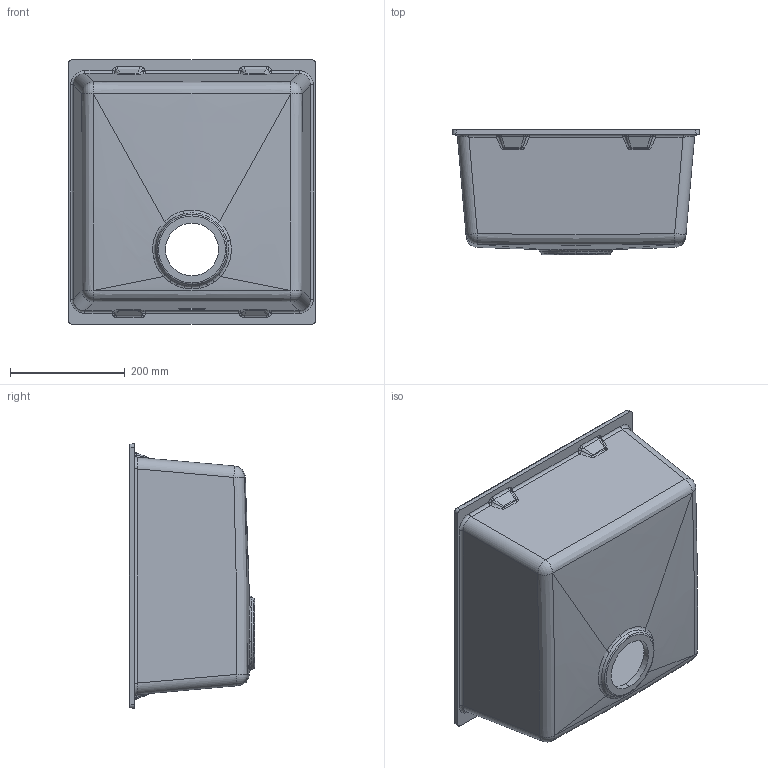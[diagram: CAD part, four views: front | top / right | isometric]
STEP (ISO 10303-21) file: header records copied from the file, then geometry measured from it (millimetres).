
FILE_DESCRIPTION (( 'STEP AP214' ), '1' );
FILE_NAME ('430 x 460_Enigma_DK.STEP', '2023-09-05T09:03:27', ( '' ), ( '' ), 'SwSTEP 2.0', 'SolidWorks 2022', '' );
FILE_SCHEMA (( 'AUTOMOTIVE_DESIGN' ));
Length unit declared in the file: millimetre
Products named in the file (1): 430 x 460_Enigma_DK
Bounding box: 430 x 217.93 x 460 mm (x, y, z)
Volume: 3705475.1 mm3; surface area: 926309.7 mm2
Topology: 1 solids, 1 shells, 191 faces, 440 edges, 252 vertices
Faces by surface type: bspline 70, cylinder 50, sphere 30, plane 23, torus 14, cone 4
Entity records: 7860 total; most frequent: CARTESIAN_POINT 4048, ORIENTED_EDGE 880, DIRECTION 718, EDGE_CURVE 440, AXIS2_PLACEMENT_3D 302, VERTEX_POINT 252, EDGE_LOOP 196, ADVANCED_FACE 191
